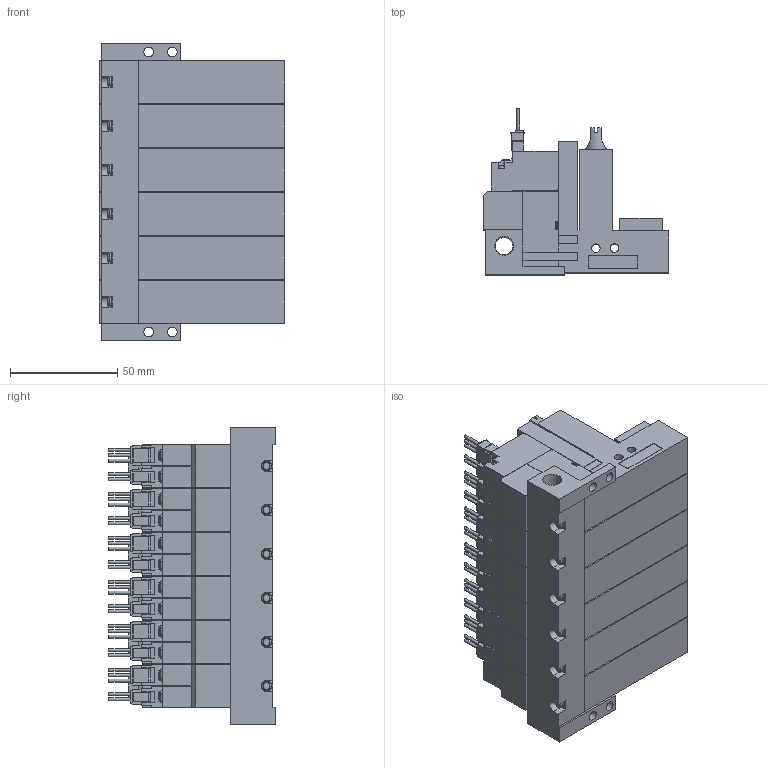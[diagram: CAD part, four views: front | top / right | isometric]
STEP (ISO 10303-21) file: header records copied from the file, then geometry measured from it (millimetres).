
FILE_DESCRIPTION(('STEP AP203'),'1');
FILE_NAME('ZL5WLR606.stp','2025-02-19T02:07:37',(' '),(' '),'Spatial InterOp 3D',' ',' ');
FILE_SCHEMA(('CONFIG_CONTROL_DESIGN'));
Length unit declared in the file: millimetre
Products named in the file (5): BMC22M※※※※ZL5WLR606; Solenoid valve W; Pressure sensor ZL; Unit L; Base MR60R
Assembly tree (19 placements, depth 2):
  BMC22M※※※※ZL5WLR606
    Solenoid valve W  x6
    Pressure sensor ZL  x6
    Unit L  x6
    Base MR60R
Bounding box: 86.6 x 77.45 x 138.5 mm (x, y, z)
Volume: 465771.6 mm3; surface area: 132582 mm2
Topology: 19 solids, 19 shells, 1983 faces, 5387 edges, 3556 vertices
Faces by surface type: plane 1706, cylinder 215, cone 44, torus 18
Full cylindrical faces by diameter (mm): 1.4 x30, 2.5 x6, 3 x24, 3.5 x24, 3.6 x6, 4 x12, 4.134 x6, 4.5 x4, 5.2 x6, 6 x6, 6.6 x6, 8.279 x1
Entity records: 13337 total; most frequent: CARTESIAN_POINT 2567, DIRECTION 2121, ORIENTED_EDGE 2058, EDGE_CURVE 1029, LINE 823, VECTOR 823, VERTEX_POINT 725, AXIS2_PLACEMENT_3D 649
